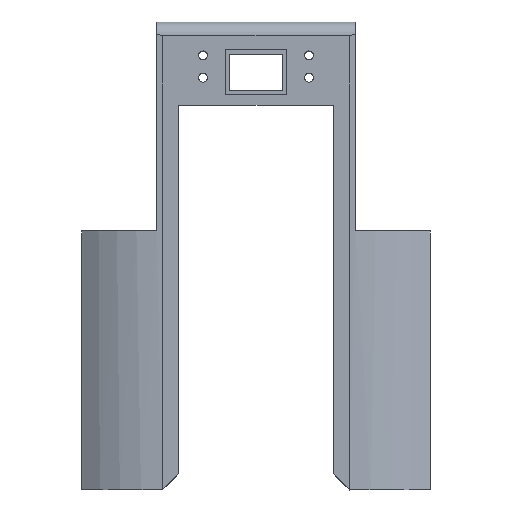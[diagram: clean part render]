
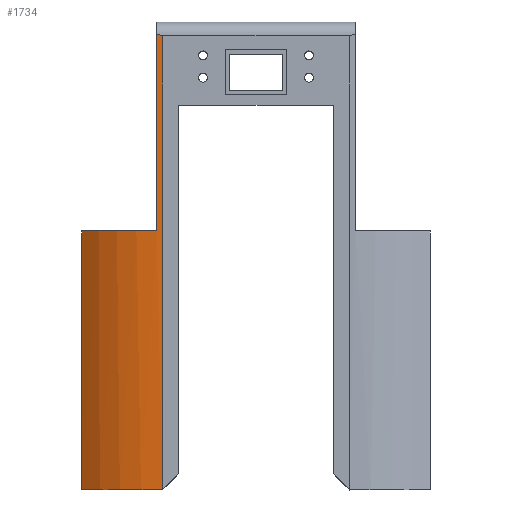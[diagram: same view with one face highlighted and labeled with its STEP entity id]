
A CAD part, top view. The second image highlights one B-rep face of the part: STEP entity #1734.
In plain terms, the highlighted cylindrical face has radius 47.331 mm (diameter 94.662 mm), a partial arc.
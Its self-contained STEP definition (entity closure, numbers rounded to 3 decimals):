
#124=FACE_OUTER_BOUND('',#226,.T.);
#226=EDGE_LOOP('',(#1201,#1202,#1203,#1204,#1205,#1206));
#364=CIRCLE('',#1851,47.331);
#365=CIRCLE('',#1852,47.331);
#439=LINE('',#2573,#611);
#440=LINE('',#2577,#612);
#441=LINE('',#2580,#613);
#611=VECTOR('',#2033,10.);
#612=VECTOR('',#2036,10.);
#613=VECTOR('',#2039,10.);
#783=B_SPLINE_CURVE_WITH_KNOTS('',3,(#2565,#2566,#2567,#2568,#2569,#2570,
#2571),.UNSPECIFIED.,.F.,.F.,(4,3,4),(0.,0.118,0.227),
 .UNSPECIFIED.);
#785=VERTEX_POINT('',#2563);
#786=VERTEX_POINT('',#2564);
#787=VERTEX_POINT('',#2572);
#788=VERTEX_POINT('',#2574);
#789=VERTEX_POINT('',#2576);
#790=VERTEX_POINT('',#2578);
#950=EDGE_CURVE('',#785,#786,#783,.T.);
#951=EDGE_CURVE('',#786,#787,#439,.T.);
#952=EDGE_CURVE('',#788,#787,#364,.T.);
#953=EDGE_CURVE('',#789,#788,#440,.T.);
#954=EDGE_CURVE('',#789,#790,#365,.F.);
#955=EDGE_CURVE('',#785,#790,#441,.T.);
#1201=ORIENTED_EDGE('',*,*,#950,.T.);
#1202=ORIENTED_EDGE('',*,*,#951,.T.);
#1203=ORIENTED_EDGE('',*,*,#952,.F.);
#1204=ORIENTED_EDGE('',*,*,#953,.F.);
#1205=ORIENTED_EDGE('',*,*,#954,.T.);
#1206=ORIENTED_EDGE('',*,*,#955,.F.);
#1703=CYLINDRICAL_SURFACE('',#1850,47.331);
#1734=ADVANCED_FACE('',(#124),#1703,.T.);
#1850=AXIS2_PLACEMENT_3D('',#2562,#2031,#2032);
#1851=AXIS2_PLACEMENT_3D('',#2575,#2034,#2035);
#1852=AXIS2_PLACEMENT_3D('',#2579,#2037,#2038);
#2031=DIRECTION('center_axis',(0.,-1.,0.));
#2032=DIRECTION('ref_axis',(-0.982,0.,0.187));
#2033=DIRECTION('',(0.,-1.,0.));
#2034=DIRECTION('center_axis',(0.,1.,0.));
#2035=DIRECTION('ref_axis',(-0.982,0.,0.187));
#2036=DIRECTION('',(0.,1.,0.));
#2037=DIRECTION('center_axis',(0.,-1.,0.));
#2038=DIRECTION('ref_axis',(-0.982,0.,0.187));
#2039=DIRECTION('',(0.,-1.,0.));
#2562=CARTESIAN_POINT('Origin',(-33.774,-37.,21.753));
#2563=CARTESIAN_POINT('',(-33.774,33.,69.084));
#2564=CARTESIAN_POINT('',(-35.974,33.713,69.033));
#2565=CARTESIAN_POINT('Ctrl Pts',(-33.774,33.,69.084));
#2566=CARTESIAN_POINT('Ctrl Pts',(-34.147,33.121,69.084));
#2567=CARTESIAN_POINT('Ctrl Pts',(-34.524,33.244,69.08));
#2568=CARTESIAN_POINT('Ctrl Pts',(-34.904,33.367,69.071));
#2569=CARTESIAN_POINT('Ctrl Pts',(-35.258,33.482,69.062));
#2570=CARTESIAN_POINT('Ctrl Pts',(-35.615,33.598,69.05));
#2571=CARTESIAN_POINT('Ctrl Pts',(-35.974,33.713,69.033));
#2572=CARTESIAN_POINT('',(-35.974,-37.,69.033));
#2573=CARTESIAN_POINT('',(-35.974,-37.,69.033));
#2574=CARTESIAN_POINT('',(-62.871,-37.,59.084));
#2575=CARTESIAN_POINT('Origin',(-33.774,-37.,21.753));
#2576=CARTESIAN_POINT('',(-62.871,-129.9,59.084));
#2577=CARTESIAN_POINT('',(-62.871,-37.,59.084));
#2578=CARTESIAN_POINT('',(-33.774,-129.9,69.084));
#2579=CARTESIAN_POINT('Origin',(-33.774,-129.9,21.753));
#2580=CARTESIAN_POINT('',(-33.774,-263.,69.084));
